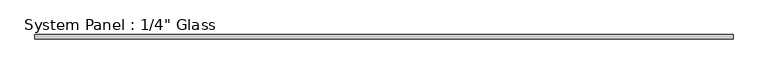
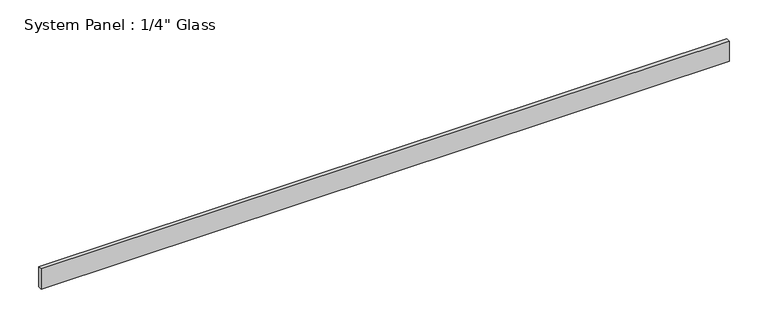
"""IFC4 building model written with IfcOpenShell, lengths in millimetres: plate geometry."""

from ifc_helpers import new_model, si_unit, origin, origin_with_axes, place, context, project, spatial, polyline, outline, extrude, source, transform, mapped, element, save


def plate_fc9a9919(model_context):
    return source(origin(), model_context, "Body", "SweptSolid", [
        extrude(outline(polyline([(514.756477, -3.175), (-514.756477, -3.175), (-514.756477, 3.175), (514.756477, 3.175), (514.756477, -3.175)])), origin_with_axes(), (0.0, 0.0, 1.0), 31.75),
    ])


if __name__ == "__main__":
    model = new_model("IFC4")
    model_context = context("Model", 3, world=origin())
    ifc_project = project(units=[si_unit("LENGTHUNIT", "METRE", prefix="MILLI")], contexts=[model_context])
    site = spatial("IfcSite", under=ifc_project)
    building = spatial("IfcBuilding", under=site)
    placement = place(None, origin())
    plate_shape = plate_fc9a9919(model_context)
    element("IfcPlate", 1, ObjectType="System Panel : 1/4\" Glass", at=placement, inside=building, context=model_context, shape_type="MappedRepresentation", body=[
        mapped(plate_shape, transform((0.0, 0.0, 0.0), x_axis=(1.0, 0.0, 0.0), y_axis=(0.0, 1.0, 0.0), z_axis=(0.0, 0.0, 1.0))),
    ])
    save(model, "model.ifc")
